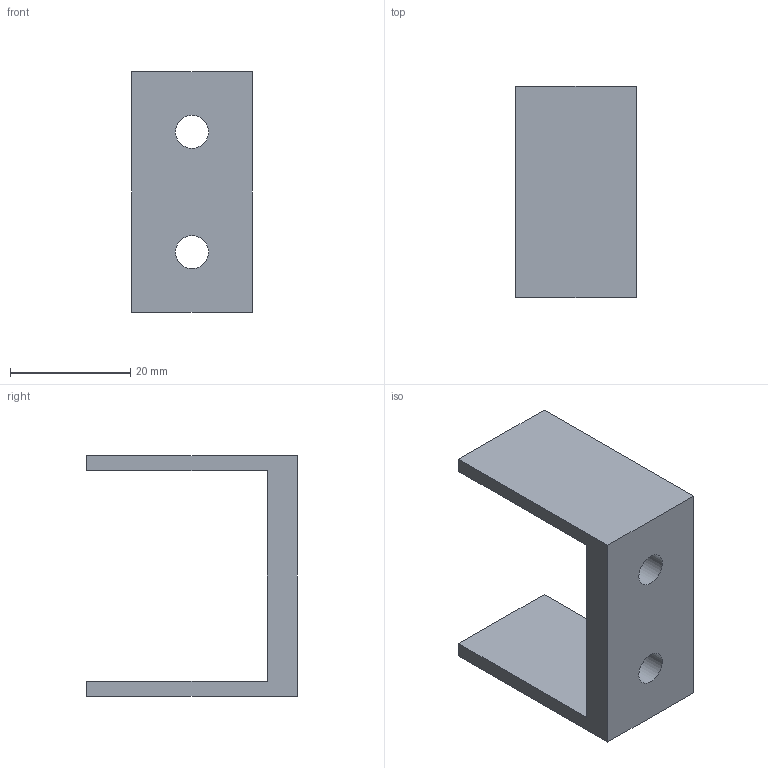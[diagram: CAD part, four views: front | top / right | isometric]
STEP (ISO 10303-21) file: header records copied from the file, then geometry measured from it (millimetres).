
FILE_DESCRIPTION(/* description */ (''),/* implementation_level */ '2;1');
FILE_NAME(/* name */ 'hand_end_3 v4.step',/* time_stamp */ '2026-04-10T14:21:16+02:00',/* author */ (''),/* organization */ (''),/* preprocessor_version */ 'ST-DEVELOPER v20.1',/* originating_system */ 'Autodesk Translation Framework v14.24.0.0',/* authorisation */ '');
FILE_SCHEMA (('AUTOMOTIVE_DESIGN { 1 0 10303 214 3 1 1 }'));
Length unit declared in the file: millimetre
Products named in the file (1): (Niezapisany)
Bounding box: 20 x 35 x 40 mm (x, y, z)
Volume: 6762.4 mm3; surface area: 4977.8 mm2
Topology: 1 solids, 1 shells, 12 faces, 30 edges, 20 vertices
Faces by surface type: plane 10, cylinder 2
Full cylindrical faces by diameter (mm): 5.5 x2
Entity records: 399 total; most frequent: CARTESIAN_POINT 63, ORIENTED_EDGE 60, DIRECTION 60, EDGE_CURVE 30, LINE 26, VECTOR 26, VERTEX_POINT 20, AXIS2_PLACEMENT_3D 17
